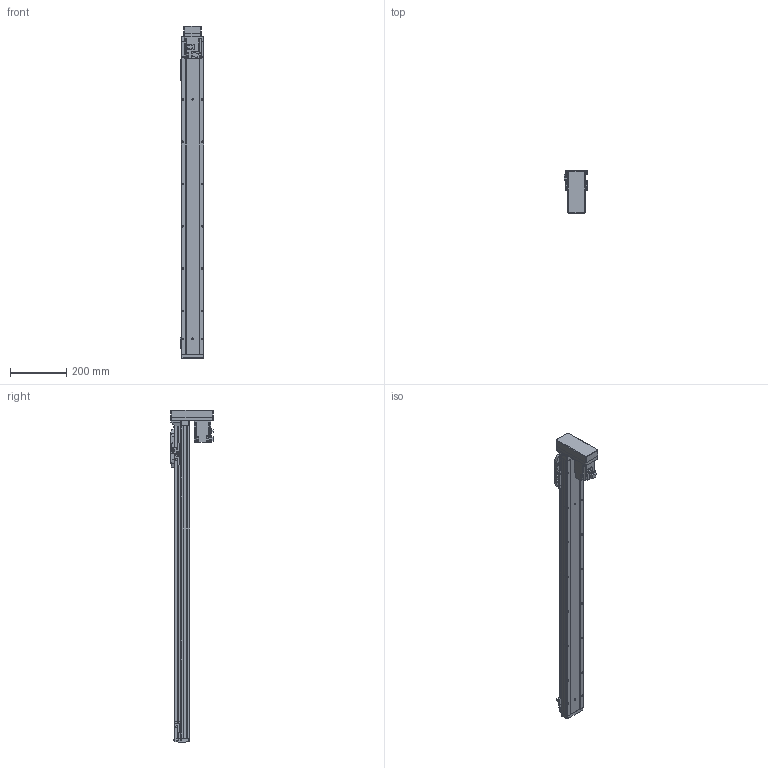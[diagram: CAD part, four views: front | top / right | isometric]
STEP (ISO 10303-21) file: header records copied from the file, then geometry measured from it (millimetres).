
FILE_DESCRIPTION (( 'STEP AP214' ), '1' );
FILE_NAME ('GSH8-950-BM-M20-1.step', '2025-01-07T06:09:32', ( '' ), ( '' ), 'SwSTEP 2.0', 'SolidWorks 2012', '' );
FILE_SCHEMA (( 'AUTOMOTIVE_DESIGN' ));
Length unit declared in the file: millimetre
Products named in the file (5): GSH8-950-BM-M20-1; GSH8-BL-008; GSH8-GY-004; GSH8-BL-011-950-M20; HG-KR23_200W_Motor
Assembly tree (4 placements, depth 2):
  GSH8-950-BM-M20-1
    GSH8-BL-011-950-M20
    GSH8-GY-004
    GSH8-BL-008
    HG-KR23_200W_Motor
Bounding box: 84 x 152.3 x 1178.2 mm (x, y, z)
Volume: 2607865.5 mm3; surface area: 684593.5 mm2
Topology: 4 solids, 8 shells, 1163 faces, 3062 edges, 1972 vertices
Faces by surface type: plane 654, cylinder 413, torus 42, cone 26, bspline 24, sphere 4
Entity records: 46648 total; most frequent: CARTESIAN_POINT 11450, DIRECTION 6218, ORIENTED_EDGE 6108, EDGE_CURVE 3054, AXIS2_PLACEMENT_3D 2096, VECTOR 2026, LINE 2026, VERTEX_POINT 1968
